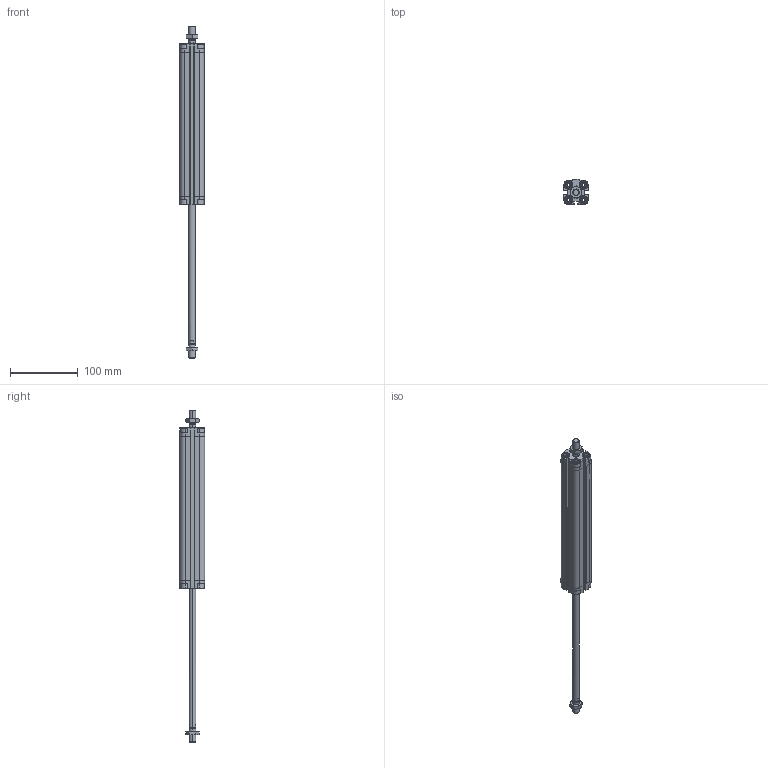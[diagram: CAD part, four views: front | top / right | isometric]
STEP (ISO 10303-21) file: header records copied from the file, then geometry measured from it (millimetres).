
FILE_DESCRIPTION (( 'STEP AP203' ), '1' );
FILE_NAME ('CDVU20-200M-P.STEP', '2020-07-21T15:11:08', ( '' ), ( '' ), 'SwSTEP 2.0', 'SolidWorks 2019', '' );
FILE_SCHEMA (( 'CONFIG_CONTROL_DESIGN' ));
Length unit declared in the file: millimetre
Products named in the file (1): CDVU20-200M-P
Bounding box: 36 x 37.5 x 491 mm (x, y, z)
Volume: 207593 mm3; surface area: 100716.4 mm2
Topology: 4 solids, 4 shells, 642 faces, 1674 edges, 1078 vertices
Faces by surface type: plane 374, cylinder 188, cone 64, torus 16
Entity records: 20369 total; most frequent: CARTESIAN_POINT 4535, ORIENTED_EDGE 3340, DIRECTION 3212, EDGE_CURVE 1670, AXIS2_PLACEMENT_3D 1115, VERTEX_POINT 1078, VECTOR 982, LINE 982
